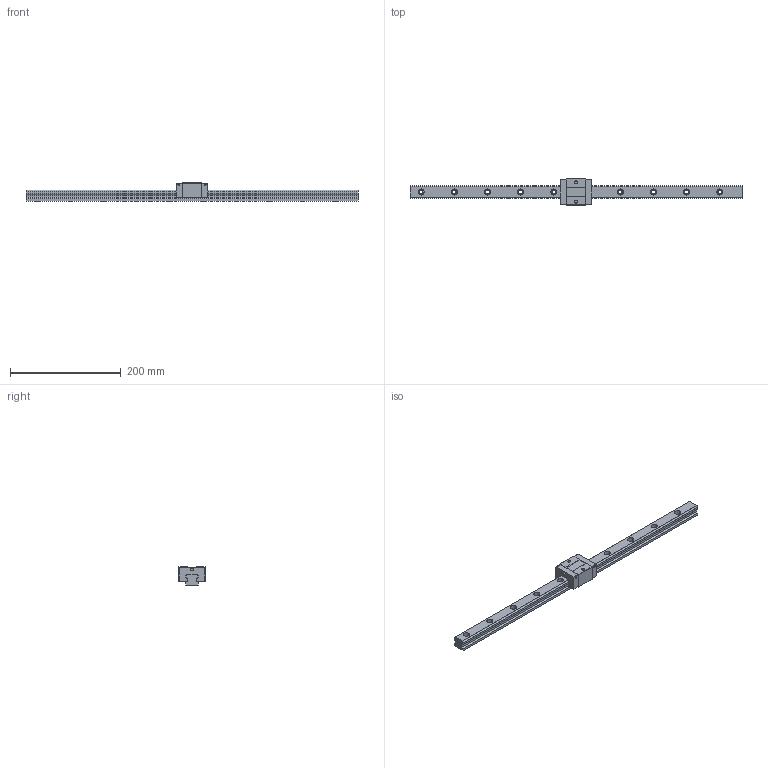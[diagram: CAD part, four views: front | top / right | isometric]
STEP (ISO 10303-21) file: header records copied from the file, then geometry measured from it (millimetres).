
FILE_DESCRIPTION (( 'STEP AP203' ), '1' );
FILE_NAME ('TRS25VS-XN.STEP', '2024-06-12T08:01:48', ( '' ), ( '' ), 'SwSTEP 2.0', 'SolidWorks 2022', '' );
FILE_SCHEMA (( 'CONFIG_CONTROL_DESIGN' ));
Length unit declared in the file: millimetre
Products named in the file (1): TRS25VS-XN
Bounding box: 600 x 48 x 33 mm (x, y, z)
Volume: 290296.1 mm3; surface area: 71731.1 mm2
Topology: 2 solids, 2 shells, 186 faces, 484 edges, 320 vertices
Faces by surface type: plane 94, cylinder 92
Entity records: 5863 total; most frequent: DIRECTION 1042, CARTESIAN_POINT 991, ORIENTED_EDGE 968, EDGE_CURVE 484, AXIS2_PLACEMENT_3D 371, VERTEX_POINT 320, LINE 300, VECTOR 300
